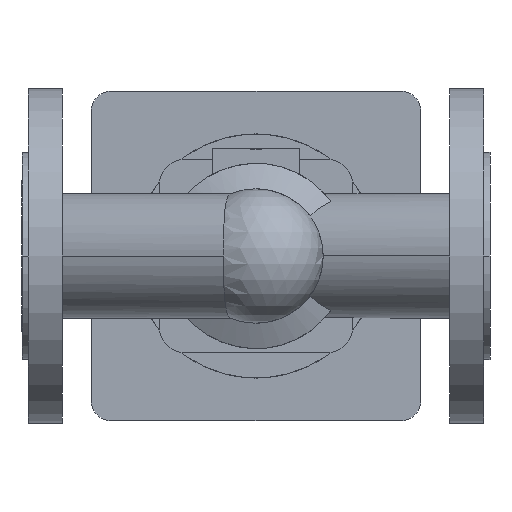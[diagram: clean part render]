
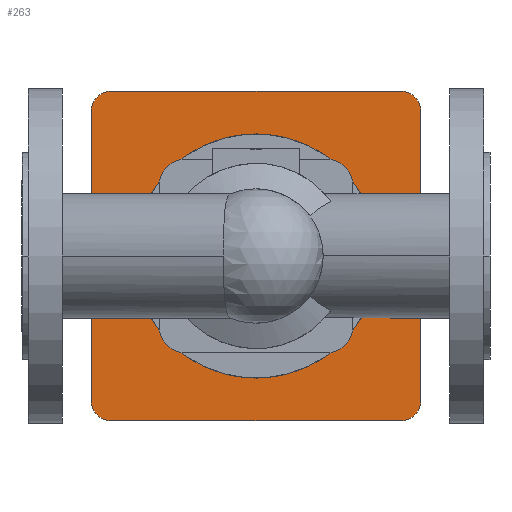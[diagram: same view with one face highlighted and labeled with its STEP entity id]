
A CAD part, front view. The second image highlights one B-rep face of the part: STEP entity #263.
In plain terms, the highlighted planar face has unit normal (0, -1, 0).
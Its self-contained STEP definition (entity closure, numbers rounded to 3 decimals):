
#263 = ADVANCED_FACE( '', ( #603, #604 ), #605, .F. );
#603 = FACE_OUTER_BOUND( '', #969, .T. );
#604 = FACE_BOUND( '', #970, .T. );
#605 = PLANE( '', #971 );
#969 = EDGE_LOOP( '', ( #2116, #2117, #2118, #2119, #2120, #2121, #2122, #2123 ) );
#970 = EDGE_LOOP( '', ( #2124, #2125 ) );
#971 = AXIS2_PLACEMENT_3D( '', #2126, #2127, #2128 );
#2116 = ORIENTED_EDGE( '', *, *, #2645, .F. );
#2117 = ORIENTED_EDGE( '', *, *, #2646, .F. );
#2118 = ORIENTED_EDGE( '', *, *, #2647, .F. );
#2119 = ORIENTED_EDGE( '', *, *, #2648, .F. );
#2120 = ORIENTED_EDGE( '', *, *, #2649, .F. );
#2121 = ORIENTED_EDGE( '', *, *, #2650, .F. );
#2122 = ORIENTED_EDGE( '', *, *, #2651, .F. );
#2123 = ORIENTED_EDGE( '', *, *, #2652, .F. );
#2124 = ORIENTED_EDGE( '', *, *, #2560, .F. );
#2125 = ORIENTED_EDGE( '', *, *, #2653, .F. );
#2126 = CARTESIAN_POINT( '', ( 115., 419., 0. ) );
#2127 = DIRECTION( '', ( 0., 1., 0. ) );
#2128 = DIRECTION( '', ( 0., 0., 1. ) );
#2560 = EDGE_CURVE( '', #3135, #3138, #3139, .T. );
#2645 = EDGE_CURVE( '', #3282, #3283, #3284, .T. );
#2646 = EDGE_CURVE( '', #3285, #3282, #3286, .T. );
#2647 = EDGE_CURVE( '', #3287, #3285, #3288, .T. );
#2648 = EDGE_CURVE( '', #3289, #3287, #3290, .T. );
#2649 = EDGE_CURVE( '', #3291, #3289, #3292, .T. );
#2650 = EDGE_CURVE( '', #3293, #3291, #3294, .T. );
#2651 = EDGE_CURVE( '', #3295, #3293, #3296, .T. );
#2652 = EDGE_CURVE( '', #3283, #3295, #3297, .T. );
#2653 = EDGE_CURVE( '', #3138, #3135, #3298, .T. );
#3135 = VERTEX_POINT( '', #4416 );
#3138 = VERTEX_POINT( '', #4420 );
#3139 = CIRCLE( '', #4421, 40. );
#3282 = VERTEX_POINT( '', #4619 );
#3283 = VERTEX_POINT( '', #4620 );
#3284 = CIRCLE( '', #4621, 10. );
#3285 = VERTEX_POINT( '', #4622 );
#3286 = LINE( '', #4623, #4624 );
#3287 = VERTEX_POINT( '', #4625 );
#3288 = CIRCLE( '', #4626, 10. );
#3289 = VERTEX_POINT( '', #4627 );
#3290 = LINE( '', #4628, #4629 );
#3291 = VERTEX_POINT( '', #4630 );
#3292 = CIRCLE( '', #4631, 10. );
#3293 = VERTEX_POINT( '', #4632 );
#3294 = LINE( '', #4633, #4634 );
#3295 = VERTEX_POINT( '', #4635 );
#3296 = CIRCLE( '', #4636, 10. );
#3297 = LINE( '', #4637, #4638 );
#3298 = CIRCLE( '', #4639, 40. );
#4416 = CARTESIAN_POINT( '', ( 75., 419., 0. ) );
#4420 = CARTESIAN_POINT( '', ( 155., 419., 0. ) );
#4421 = AXIS2_PLACEMENT_3D( '', #5194, #5195, #5196 );
#4619 = CARTESIAN_POINT( '', ( 34., 419., 71. ) );
#4620 = CARTESIAN_POINT( '', ( 44., 419., 81. ) );
#4621 = AXIS2_PLACEMENT_3D( '', #5339, #5340, #5341 );
#4622 = CARTESIAN_POINT( '', ( 34., 419., -71. ) );
#4623 = CARTESIAN_POINT( '', ( 34., 419., -71. ) );
#4624 = VECTOR( '', #5342, 1. );
#4625 = CARTESIAN_POINT( '', ( 44., 419., -81. ) );
#4626 = AXIS2_PLACEMENT_3D( '', #5343, #5344, #5345 );
#4627 = CARTESIAN_POINT( '', ( 186., 419., -81. ) );
#4628 = CARTESIAN_POINT( '', ( 186., 419., -81. ) );
#4629 = VECTOR( '', #5346, 1. );
#4630 = CARTESIAN_POINT( '', ( 196., 419., -71. ) );
#4631 = AXIS2_PLACEMENT_3D( '', #5347, #5348, #5349 );
#4632 = CARTESIAN_POINT( '', ( 196., 419., 71. ) );
#4633 = CARTESIAN_POINT( '', ( 196., 419., 71. ) );
#4634 = VECTOR( '', #5350, 1. );
#4635 = CARTESIAN_POINT( '', ( 186., 419., 81. ) );
#4636 = AXIS2_PLACEMENT_3D( '', #5351, #5352, #5353 );
#4637 = CARTESIAN_POINT( '', ( 44., 419., 81. ) );
#4638 = VECTOR( '', #5354, 1. );
#4639 = AXIS2_PLACEMENT_3D( '', #5355, #5356, #5357 );
#5194 = CARTESIAN_POINT( '', ( 115., 419., 0. ) );
#5195 = DIRECTION( '', ( 0., -1., 0. ) );
#5196 = DIRECTION( '', ( -1., 0., 0. ) );
#5339 = CARTESIAN_POINT( '', ( 44., 419., 71. ) );
#5340 = DIRECTION( '', ( 0., 1., 0. ) );
#5341 = DIRECTION( '', ( -1., 0., 0. ) );
#5342 = DIRECTION( '', ( 0., 0., 1. ) );
#5343 = CARTESIAN_POINT( '', ( 44., 419., -71. ) );
#5344 = DIRECTION( '', ( 0., 1., 0. ) );
#5345 = DIRECTION( '', ( 0., 0., -1. ) );
#5346 = DIRECTION( '', ( -1., 0., 0. ) );
#5347 = CARTESIAN_POINT( '', ( 186., 419., -71. ) );
#5348 = DIRECTION( '', ( 0., 1., 0. ) );
#5349 = DIRECTION( '', ( 1., 0., 0. ) );
#5350 = DIRECTION( '', ( 0., 0., -1. ) );
#5351 = CARTESIAN_POINT( '', ( 186., 419., 71. ) );
#5352 = DIRECTION( '', ( 0., 1., 0. ) );
#5353 = DIRECTION( '', ( 0., 0., 1. ) );
#5354 = DIRECTION( '', ( 1., 0., 0. ) );
#5355 = CARTESIAN_POINT( '', ( 115., 419., 0. ) );
#5356 = DIRECTION( '', ( 0., -1., 0. ) );
#5357 = DIRECTION( '', ( -1., 0., 0. ) );
